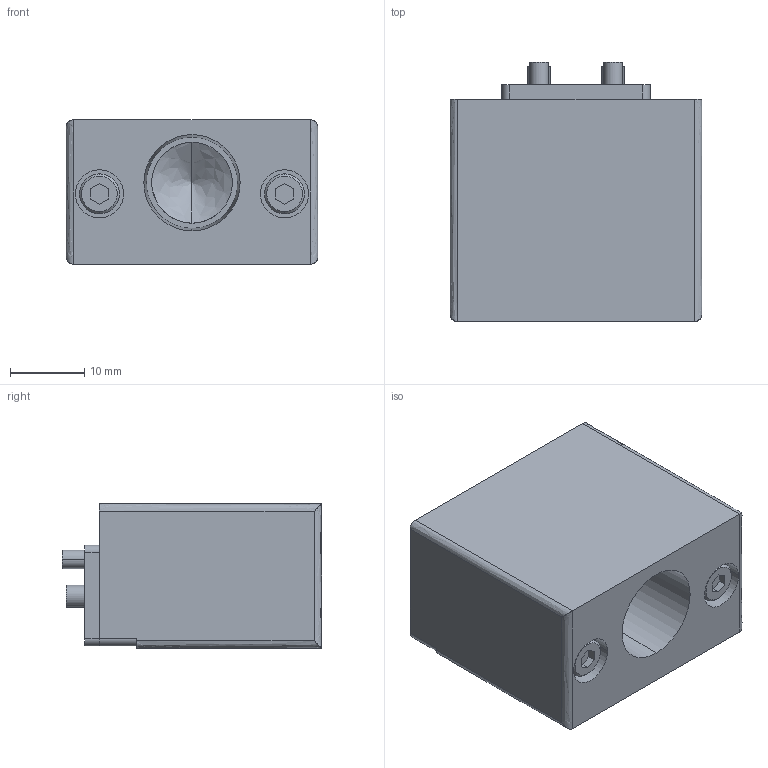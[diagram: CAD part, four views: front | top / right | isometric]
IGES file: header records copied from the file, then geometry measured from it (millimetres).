
Start section: 3D InterOp IGES (v. 2022 1.0.0), Spatial Corp. Copyright (c) 1999-2020.
Global section: file name: KHB-1RS-EP81_ver1.igs; native system: Spatial Corp.; preprocessor: 3D InterOp GENERIC/IGES 3.0; author: Noname; organization: Noname; date: 20260424.084246; units: millimetre
Bounding box: 34 x 35 x 19.5 mm (x, y, z)
Surface area: 7302.1 mm2 (no closed solid volume)
Topology: 0 solids, 0 shells, 151 faces, 660 edges, 658 vertices
Faces by surface type: revolution 80, extrusion 71
